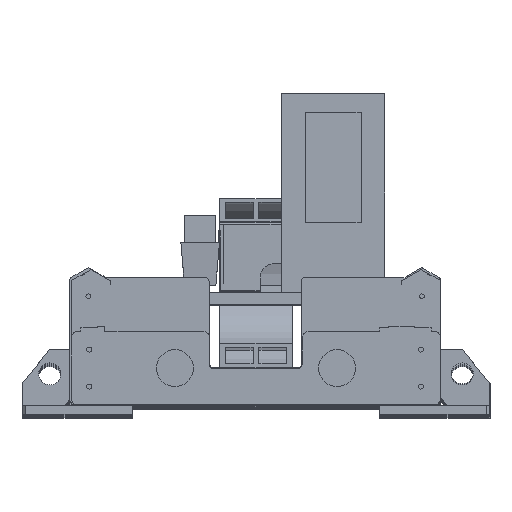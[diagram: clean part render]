
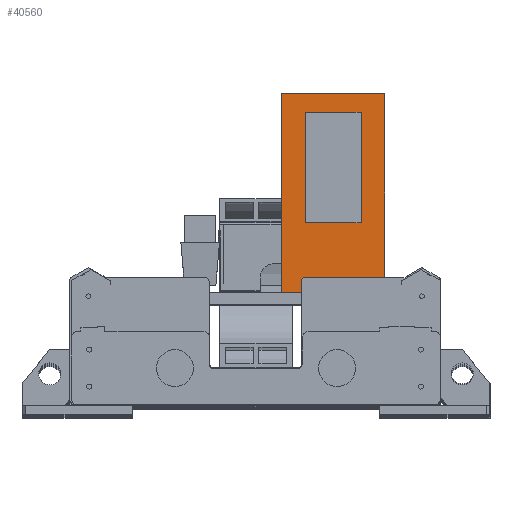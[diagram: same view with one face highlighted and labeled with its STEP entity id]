
A CAD part, top view. The second image highlights one B-rep face of the part: STEP entity #40560.
In plain terms, the highlighted planar face has unit normal (0, 0, 1).
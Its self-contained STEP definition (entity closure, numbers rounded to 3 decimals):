
#2093 = AXIS2_PLACEMENT_3D ( 'NONE', #8753, #28275, #47760 ) ;
#2779 = CARTESIAN_POINT ( 'NONE',  ( 226.769, 665.679, 4980.77 ) ) ;
#3216 = DIRECTION ( 'NONE',  ( 0., -1., 0. ) ) ;
#3241 = VERTEX_POINT ( 'NONE', #58375 ) ;
#3314 = VECTOR ( 'NONE', #7086, 1000. ) ;
#3599 = CARTESIAN_POINT ( 'NONE',  ( 76.769, 665.679, 4980.77 ) ) ;
#3774 = DIRECTION ( 'NONE',  ( 1., 0., 0. ) ) ;
#4583 = CARTESIAN_POINT ( 'NONE',  ( 76.769, 665.679, 4980.77 ) ) ;
#5765 = EDGE_LOOP ( 'NONE', ( #50143, #62980, #54968, #6557 ) ) ;
#6557 = ORIENTED_EDGE ( 'NONE', *, *, #38326, .F. ) ;
#6839 = CARTESIAN_POINT ( 'NONE',  ( 11.769, 177.179, 4980.77 ) ) ;
#7086 = DIRECTION ( 'NONE',  ( 1., 0., 0. ) ) ;
#7335 = CARTESIAN_POINT ( 'NONE',  ( 291.769, 715.679, 4980.77 ) ) ;
#7707 = VERTEX_POINT ( 'NONE', #24073 ) ;
#8568 = LINE ( 'NONE', #28086, #40286 ) ;
#8632 = LINE ( 'NONE', #28148, #45262 ) ;
#8753 = CARTESIAN_POINT ( 'NONE',  ( 291.769, 715.679, 4980.77 ) ) ;
#10046 = LINE ( 'NONE', #29581, #53017 ) ;
#13050 = VERTEX_POINT ( 'NONE', #2779 ) ;
#13365 = DIRECTION ( 'NONE',  ( 0., -1., 0. ) ) ;
#13551 = FACE_OUTER_BOUND ( 'NONE', #5765, .T. ) ;
#14903 = ORIENTED_EDGE ( 'NONE', *, *, #30303, .F. ) ;
#19251 = VERTEX_POINT ( 'NONE', #6839 ) ;
#19826 = EDGE_CURVE ( 'NONE', #19251, #43833, #8632, .T. ) ;
#20785 = VERTEX_POINT ( 'NONE', #7335 ) ;
#23099 = DIRECTION ( 'NONE',  ( -1., 0., 0. ) ) ;
#24073 = CARTESIAN_POINT ( 'NONE',  ( 11.769, 715.679, 4980.77 ) ) ;
#27535 = LINE ( 'NONE', #47033, #42113 ) ;
#28086 = CARTESIAN_POINT ( 'NONE',  ( 76.769, 665.679, 4980.77 ) ) ;
#28094 = LINE ( 'NONE', #47584, #36230 ) ;
#28148 = CARTESIAN_POINT ( 'NONE',  ( 11.769, 177.179, 4980.77 ) ) ;
#28275 = DIRECTION ( 'NONE',  ( 0., 0., -1. ) ) ;
#28463 = VECTOR ( 'NONE', #13365, 1000. ) ;
#28742 = EDGE_CURVE ( 'NONE', #13050, #37531, #47408, .T. ) ;
#29214 = ORIENTED_EDGE ( 'NONE', *, *, #57154, .F. ) ;
#29581 = CARTESIAN_POINT ( 'NONE',  ( 226.769, 665.679, 4980.77 ) ) ;
#30303 = EDGE_CURVE ( 'NONE', #61149, #3241, #31406, .T. ) ;
#31406 = LINE ( 'NONE', #50897, #3314 ) ;
#32702 = EDGE_CURVE ( 'NONE', #20785, #43833, #37668, .T. ) ;
#33081 = FACE_BOUND ( 'NONE', #50825, .T. ) ;
#35720 = ORIENTED_EDGE ( 'NONE', *, *, #28742, .F. ) ;
#36230 = VECTOR ( 'NONE', #3774, 1000. ) ;
#36672 = EDGE_CURVE ( 'NONE', #7707, #19251, #27535, .T. ) ;
#37531 = VERTEX_POINT ( 'NONE', #4583 ) ;
#37668 = LINE ( 'NONE', #57166, #28463 ) ;
#38326 = EDGE_CURVE ( 'NONE', #7707, #20785, #28094, .T. ) ;
#39598 = ORIENTED_EDGE ( 'NONE', *, *, #53953, .F. ) ;
#40286 = VECTOR ( 'NONE', #47574, 1000. ) ;
#40560 = ADVANCED_FACE ( 'NONE', ( #13551, #33081 ), #52569, .F. ) ;
#42113 = VECTOR ( 'NONE', #3216, 1000. ) ;
#43833 = VERTEX_POINT ( 'NONE', #48184 ) ;
#45262 = VECTOR ( 'NONE', #47638, 1000. ) ;
#47033 = CARTESIAN_POINT ( 'NONE',  ( 11.769, 715.679, 4980.77 ) ) ;
#47408 = LINE ( 'NONE', #3599, #52570 ) ;
#47574 = DIRECTION ( 'NONE',  ( 0., -1., 0. ) ) ;
#47584 = CARTESIAN_POINT ( 'NONE',  ( 291.769, 715.679, 4980.77 ) ) ;
#47638 = DIRECTION ( 'NONE',  ( 1., 0., 0. ) ) ;
#47760 = DIRECTION ( 'NONE',  ( -1., 0., 0. ) ) ;
#48184 = CARTESIAN_POINT ( 'NONE',  ( 291.769, 177.179, 4980.77 ) ) ;
#49074 = DIRECTION ( 'NONE',  ( 0., 1., 0. ) ) ;
#49076 = CARTESIAN_POINT ( 'NONE',  ( 76.769, 365.679, 4980.77 ) ) ;
#50143 = ORIENTED_EDGE ( 'NONE', *, *, #36672, .T. ) ;
#50825 = EDGE_LOOP ( 'NONE', ( #14903, #39598, #35720, #29214 ) ) ;
#50897 = CARTESIAN_POINT ( 'NONE',  ( 76.769, 365.679, 4980.77 ) ) ;
#52569 = PLANE ( 'NONE',  #2093 ) ;
#52570 = VECTOR ( 'NONE', #23099, 1000. ) ;
#53017 = VECTOR ( 'NONE', #49074, 1000. ) ;
#53953 = EDGE_CURVE ( 'NONE', #37531, #61149, #8568, .T. ) ;
#54968 = ORIENTED_EDGE ( 'NONE', *, *, #32702, .F. ) ;
#57154 = EDGE_CURVE ( 'NONE', #3241, #13050, #10046, .T. ) ;
#57166 = CARTESIAN_POINT ( 'NONE',  ( 291.769, 715.679, 4980.77 ) ) ;
#58375 = CARTESIAN_POINT ( 'NONE',  ( 226.769, 365.679, 4980.77 ) ) ;
#61149 = VERTEX_POINT ( 'NONE', #49076 ) ;
#62980 = ORIENTED_EDGE ( 'NONE', *, *, #19826, .T. ) ;
